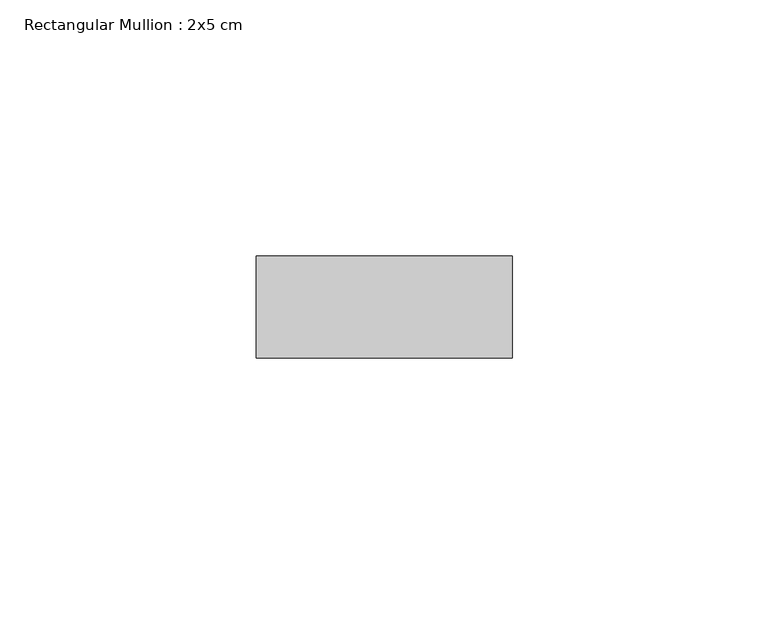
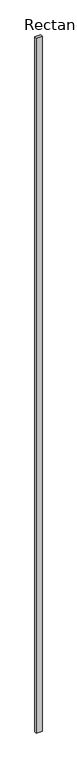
"""IFC4 building model written with IfcOpenShell, lengths in millimetres: member geometry, Rectangular Mullion : 2x5 cm."""

import ifcopenshell
import ifcopenshell.guid

model = None  # the IFC model being written
_history = None  # IfcOwnerHistory: only IFC2X3 demands one
_inside = {}  # id of a spatial element -> (the spatial element, [elements in it])
_under = {}  # id of a project, library or spatial element -> (it, [spatial elements below it])
_declared = {}  # id of a project -> (the project, [libraries it declares])
_typed = {}  # id of a type object -> (the type object, [elements of that type])
_made_of = {}  # id of a material, layer set ... -> (it, [elements and type objects made of it])


def new_model(schema):
    """Start an empty IFC model of exactly this schema.

    Asked for "IFC4X3", IfcOpenShell would pick the latest addendum, in which some entities
    have other attributes; the version numbers below select the first issue.
    IFC2X3 requires an IfcOwnerHistory on every rooted entity: one is made here for all.
    """
    global model, _history
    if schema == "IFC4X3":
        model = ifcopenshell.file(schema_version=(4, 3, 0, 0))
    else:
        model = ifcopenshell.file(schema=schema)
    _inside.clear()
    _under.clear()
    _declared.clear()
    _typed.clear()
    _made_of.clear()
    _history = None
    if model.schema == "IFC2X3":
        org = make("IfcOrganization", Name="unknown")
        user = make(
            "IfcPersonAndOrganization",
            ThePerson=make("IfcPerson", FamilyName="unknown"),
            TheOrganization=org,
        )
        app = make(
            "IfcApplication",
            ApplicationDeveloper=org,
            Version="unknown",
            ApplicationFullName="unknown",
            ApplicationIdentifier="unknown",
        )
        _history = make(
            "IfcOwnerHistory",
            OwningUser=user,
            OwningApplication=app,
            ChangeAction="ADDED",
            CreationDate=0,
        )
    return model


def make(cls, **values):
    """One entity of the class cls with the attributes given. An attribute that is None is left unset."""
    return model.create_entity(
        cls, **{name: value for name, value in values.items() if value is not None}
    )


def rooted(cls, **values):
    """An entity with a GlobalId (a new one), such as an element, a storey or a relation."""
    return make(cls, GlobalId=ifcopenshell.guid.new(), OwnerHistory=_history, **values)


def si_unit(unit_type, name, prefix=None):
    """IfcSIUnit, for example si_unit("LENGTHUNIT", "METRE", prefix="MILLI")."""
    return make("IfcSIUnit", UnitType=unit_type, Prefix=prefix, Name=name)


def assignment(units):
    """IfcUnitAssignment: the units of a project."""
    return None if units is None else make("IfcUnitAssignment", Units=units)


def point(xyz):
    """IfcCartesianPoint."""
    return None if xyz is None else make("IfcCartesianPoint", Coordinates=xyz)


def direction(xyz):
    """IfcDirection."""
    return None if xyz is None else make("IfcDirection", DirectionRatios=xyz)


def frame(location, z_axis=None, x_axis=None):
    """IfcAxis2Placement3D, a coordinate frame: its origin and axes. An axis left out is left unset."""
    return make(
        "IfcAxis2Placement3D",
        Location=point(location),
        Axis=direction(z_axis),
        RefDirection=direction(x_axis),
    )


def origin():
    """The frame at (0, 0, 0) with its axes left unset."""
    return frame((0.0, 0.0, 0.0))


def place(relative_to, where):
    """IfcLocalPlacement: puts the frame where relative to a parent placement (None: the world)."""
    return make(
        "IfcLocalPlacement", PlacementRelTo=relative_to, RelativePlacement=where
    )


def context(
    kind, dimensions, precision=None, world=None, true_north=None, identifier=None
):
    """IfcGeometricRepresentationContext, for example the 3D "Model" context."""
    return make(
        "IfcGeometricRepresentationContext",
        ContextIdentifier=identifier,
        ContextType=kind,
        CoordinateSpaceDimension=dimensions,
        Precision=precision,
        WorldCoordinateSystem=world,
        TrueNorth=true_north,
    )


def project(units=None, contexts=None):
    """IfcProject with its units and contexts."""
    return rooted(
        "IfcProject",
        Name="project",
        RepresentationContexts=contexts,
        UnitsInContext=assignment(units),
    )


def spatial(cls, under=None, at=None, **own):
    """A site, building, storey or space (cls), placed at a placement, below another one or the project."""
    s = rooted(cls, ObjectPlacement=at, **own)
    if under is not None:
        _under.setdefault(under.id(), (under, []))[1].append(s)
    return s


def polyline(points):
    """IfcPolyline through the points."""
    return make("IfcPolyline", Points=[point(p) for p in points])


def outline(outer, holes=None, kind="AREA"):
    """IfcArbitraryClosedProfileDef: a profile drawn as a closed curve; with holes, ...WithVoids."""
    if holes is None:
        return make("IfcArbitraryClosedProfileDef", ProfileType=kind, OuterCurve=outer)
    return make(
        "IfcArbitraryProfileDefWithVoids",
        ProfileType=kind,
        OuterCurve=outer,
        InnerCurves=holes,
    )


def extrude(swept, where, along, depth):
    """IfcExtrudedAreaSolid: the profile swept, set in the frame where, extruded along a direction by depth."""
    return make(
        "IfcExtrudedAreaSolid",
        SweptArea=swept,
        Position=where,
        ExtrudedDirection=direction(along),
        Depth=depth,
    )


def shape(context_of_items, identifier, shape_type, items):
    """IfcShapeRepresentation: the items that make up one representation, for example the "Body"."""
    return make(
        "IfcShapeRepresentation",
        ContextOfItems=context_of_items,
        RepresentationIdentifier=identifier,
        RepresentationType=shape_type,
        Items=items,
    )


def source(mapping_origin, context_of_items, identifier, shape_type, items):
    """IfcRepresentationMap: a shape defined once, which mapped items show again and again."""
    return make(
        "IfcRepresentationMap",
        MappingOrigin=mapping_origin,
        MappedRepresentation=shape(context_of_items, identifier, shape_type, items),
    )


def transform(
    local_origin,
    x_axis=None,
    y_axis=None,
    z_axis=None,
    scale=None,
    scale2=None,
    scale3=None,
    uniform=True,
):
    """IfcCartesianTransformationOperator3D, or its non-uniform kind. x_axis, y_axis, z_axis: its Axis1, 2, 3."""
    if uniform:
        return make(
            "IfcCartesianTransformationOperator3D",
            Axis1=direction(x_axis),
            Axis2=direction(y_axis),
            LocalOrigin=point(local_origin),
            Scale=scale,
            Axis3=direction(z_axis),
        )
    return make(
        "IfcCartesianTransformationOperator3DnonUniform",
        Axis1=direction(x_axis),
        Axis2=direction(y_axis),
        LocalOrigin=point(local_origin),
        Scale=scale,
        Axis3=direction(z_axis),
        Scale2=scale2,
        Scale3=scale3,
    )


def mapped(mapping_source, mapping_target):
    """IfcMappedItem: shows the shape of a source again, moved by a transform."""
    return make(
        "IfcMappedItem", MappingSource=mapping_source, MappingTarget=mapping_target
    )


def made_of(thing, what):
    """Note that an element or type object is made of a material, layer set ...; save() writes the relation."""
    if what is not None:
        _made_of.setdefault(what.id(), (what, []))[1].append(thing)
    return thing


def element(
    cls,
    number,
    at=None,
    inside=None,
    cuts=None,
    type_object=None,
    material=None,
    context=None,
    identifier="Body",
    shape_type=None,
    held_by="IfcProductDefinitionShape",
    body=None,
    shapes=None,
    **own,
):
    """One element of the class cls, such as IfcWall. Its Tag is "e" and its number.

    at: its placement. inside: the storey or other place that contains it. cuts: it is an
    opening in that element (IfcRelVoidsElement). A single representation is given by context,
    identifier, shape_type and body (its items); several are given by shapes. held_by: the class
    of the entity that holds the representations. save() writes the other relations.
    """
    e = rooted(cls, Tag="e%d" % number, ObjectPlacement=at, **own)
    if body is not None:
        shapes = [shape(context, identifier, shape_type, body)]
    if shapes is not None:
        e.Representation = make(held_by, Representations=shapes)
    if inside is not None:
        _inside.setdefault(inside.id(), (inside, []))[1].append(e)
    if cuts is not None:
        rooted(
            "IfcRelVoidsElement", RelatingBuildingElement=cuts, RelatedOpeningElement=e
        )
    if type_object is not None:
        _typed.setdefault(type_object.id(), (type_object, []))[1].append(e)
    return made_of(e, material)


def aggregate(whole, parts):
    """IfcRelAggregates: a whole, such as a stair, and the parts it consists of."""
    return rooted("IfcRelAggregates", RelatingObject=whole, RelatedObjects=parts)


def save(model, path):
    """Write the relations noted so far, then the file.

    IfcRelAggregates (storeys below a building ...), IfcRelContainedInSpatialStructure (elements
    in a storey), IfcRelDefinesByType, IfcRelAssociatesMaterial and IfcRelDeclares: one each for
    every whole, place, type object, material and project.
    """
    for whole, parts in _under.values():
        aggregate(whole, parts)
    for where, things in _inside.values():
        rooted(
            "IfcRelContainedInSpatialStructure",
            RelatedElements=things,
            RelatingStructure=where,
        )
    for kind, things in _typed.values():
        rooted("IfcRelDefinesByType", RelatedObjects=things, RelatingType=kind)
    for what, things in _made_of.values():
        rooted("IfcRelAssociatesMaterial", RelatedObjects=things, RelatingMaterial=what)
    for by, libraries in _declared.values():
        rooted("IfcRelDeclares", RelatingContext=by, RelatedDefinitions=libraries)
    model.write(path)


def rectangular_mullion_2x5_cm_b1a70161(model_context):
    return source(origin(), model_context, "Body", "SweptSolid", [
        extrude(outline(polyline([(50.0, 20.0), (50.0, 0.0), (0.0, 0.0), (0.0, 20.0), (50.0, 20.0)])), frame((0.0, 0.0, -6331.82345), z_axis=(0.0, 0.0, 1.0), x_axis=(1.0, 0.0, 0.0)), (0.0, 0.0, 1.0), 6331.82345),
    ])


if __name__ == "__main__":
    model = new_model("IFC4")
    model_context = context("Model", 3, world=origin())
    ifc_project = project(units=[si_unit("LENGTHUNIT", "METRE", prefix="MILLI")], contexts=[model_context])
    site = spatial("IfcSite", under=ifc_project)
    building = spatial("IfcBuilding", under=site)
    placement = place(None, origin())
    rectangular_mullion_2x5_cm_shape = rectangular_mullion_2x5_cm_b1a70161(model_context)
    element("IfcMember", 1, ObjectType="Rectangular Mullion : 2x5 cm", at=placement, inside=building, context=model_context, shape_type="MappedRepresentation", body=[
        mapped(rectangular_mullion_2x5_cm_shape, transform((0.0, 0.0, 0.0), x_axis=(1.0, 0.0, 0.0), y_axis=(0.0, 1.0, 0.0), z_axis=(0.0, 0.0, 1.0))),
    ])
    save(model, "model.ifc")
